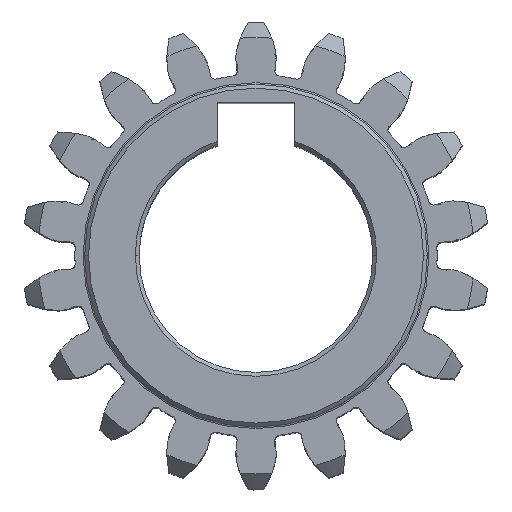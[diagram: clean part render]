
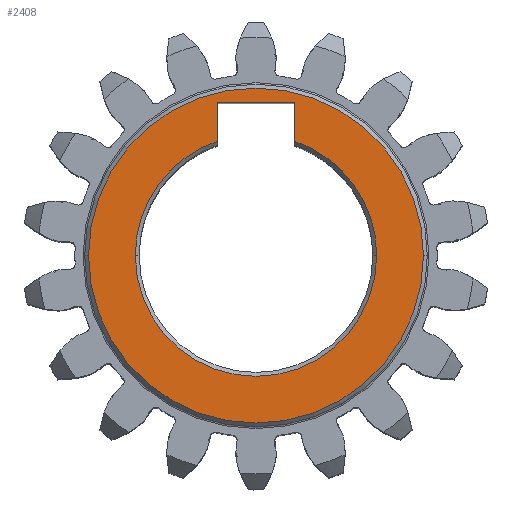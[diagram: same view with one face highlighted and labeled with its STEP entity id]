
A CAD part, top view. The second image highlights one B-rep face of the part: STEP entity #2408.
In plain terms, the highlighted planar face has unit normal (0, 0, 1).
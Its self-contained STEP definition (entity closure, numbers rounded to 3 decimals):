
#182 = DIRECTION ( 'NONE',  ( 1., 0., 0. ) ) ;
#252 = DIRECTION ( 'NONE',  ( 0., 0., 1. ) ) ;
#407 = DIRECTION ( 'NONE',  ( 1., 0., 0. ) ) ;
#514 = VERTEX_POINT ( 'NONE', #2879 ) ;
#551 = FACE_OUTER_BOUND ( 'NONE', #1300, .T. ) ;
#602 = CARTESIAN_POINT ( 'NONE',  ( 0., 0., 15. ) ) ;
#631 = CARTESIAN_POINT ( 'NONE',  ( -10.75, 0., 15. ) ) ;
#855 = AXIS2_PLACEMENT_3D ( 'NONE', #602, #10812, #5679 ) ;
#941 = ORIENTED_EDGE ( 'NONE', *, *, #4133, .T. ) ;
#1032 = VECTOR ( 'NONE', #6882, 1000. ) ;
#1300 = EDGE_LOOP ( 'NONE', ( #941, #10538 ) ) ;
#1587 = VECTOR ( 'NONE', #6130, 1000. ) ;
#1857 = LINE ( 'NONE', #2592, #1032 ) ;
#1892 = CARTESIAN_POINT ( 'NONE',  ( -7.75, 0., 15. ) ) ;
#1932 = AXIS2_PLACEMENT_3D ( 'NONE', #3542, #5310, #182 ) ;
#2365 = LINE ( 'NONE', #8403, #6014 ) ;
#2405 = VERTEX_POINT ( 'NONE', #9143 ) ;
#2408 = ADVANCED_FACE ( 'NONE', ( #551, #10767 ), #4729, .T. ) ;
#2418 = ORIENTED_EDGE ( 'NONE', *, *, #2853, .T. ) ;
#2423 = VERTEX_POINT ( 'NONE', #4892 ) ;
#2535 = CARTESIAN_POINT ( 'NONE',  ( 7.75, 0., 15. ) ) ;
#2576 = EDGE_CURVE ( 'NONE', #3719, #2423, #7447, .T. ) ;
#2592 = CARTESIAN_POINT ( 'NONE',  ( 2.5, 9.8, 15. ) ) ;
#2785 = EDGE_CURVE ( 'NONE', #2405, #514, #2365, .T. ) ;
#2853 = EDGE_CURVE ( 'NONE', #8025, #2405, #1857, .T. ) ;
#2879 = CARTESIAN_POINT ( 'NONE',  ( 2.5, 7.336, 15. ) ) ;
#2888 = DIRECTION ( 'NONE',  ( 0., 0., -1. ) ) ;
#2950 = EDGE_CURVE ( 'NONE', #3438, #3719, #5492, .T. ) ;
#3009 = ORIENTED_EDGE ( 'NONE', *, *, #2785, .T. ) ;
#3014 = CIRCLE ( 'NONE', #10128, 10.75 ) ;
#3438 = VERTEX_POINT ( 'NONE', #2535 ) ;
#3542 = CARTESIAN_POINT ( 'NONE',  ( 0., 0., 15. ) ) ;
#3719 = VERTEX_POINT ( 'NONE', #1892 ) ;
#3941 = CARTESIAN_POINT ( 'NONE',  ( 10.75, 0., 15. ) ) ;
#4133 = EDGE_CURVE ( 'NONE', #9963, #9974, #7088, .T. ) ;
#4235 = CIRCLE ( 'NONE', #6379, 7.75 ) ;
#4369 = EDGE_CURVE ( 'NONE', #9974, #9963, #3014, .T. ) ;
#4498 = ORIENTED_EDGE ( 'NONE', *, *, #8103, .T. ) ;
#4729 = PLANE ( 'NONE',  #855 ) ;
#4744 = DIRECTION ( 'NONE',  ( 0., 0., 1. ) ) ;
#4892 = CARTESIAN_POINT ( 'NONE',  ( -2.5, 7.336, 15. ) ) ;
#5061 = CARTESIAN_POINT ( 'NONE',  ( 0., 0., 15. ) ) ;
#5141 = LINE ( 'NONE', #6301, #1587 ) ;
#5310 = DIRECTION ( 'NONE',  ( 0., 0., -1. ) ) ;
#5492 = CIRCLE ( 'NONE', #1932, 7.75 ) ;
#5641 = CARTESIAN_POINT ( 'NONE',  ( 0., 0., 15. ) ) ;
#5679 = DIRECTION ( 'NONE',  ( 1., 0., 0. ) ) ;
#6014 = VECTOR ( 'NONE', #10843, 1000. ) ;
#6130 = DIRECTION ( 'NONE',  ( 0., 1., 0. ) ) ;
#6208 = DIRECTION ( 'NONE',  ( 1., 0., 0. ) ) ;
#6301 = CARTESIAN_POINT ( 'NONE',  ( -2.5, 5.2, 15. ) ) ;
#6323 = DIRECTION ( 'NONE',  ( 1., 0., 0. ) ) ;
#6379 = AXIS2_PLACEMENT_3D ( 'NONE', #10527, #2888, #6323 ) ;
#6849 = DIRECTION ( 'NONE',  ( 0., 0., -1. ) ) ;
#6882 = DIRECTION ( 'NONE',  ( 1., 0., 0. ) ) ;
#6909 = AXIS2_PLACEMENT_3D ( 'NONE', #9624, #252, #6208 ) ;
#7088 = CIRCLE ( 'NONE', #6909, 10.75 ) ;
#7239 = ORIENTED_EDGE ( 'NONE', *, *, #2950, .T. ) ;
#7447 = CIRCLE ( 'NONE', #7803, 7.75 ) ;
#7690 = EDGE_CURVE ( 'NONE', #514, #3438, #4235, .T. ) ;
#7803 = AXIS2_PLACEMENT_3D ( 'NONE', #5061, #6849, #10208 ) ;
#8025 = VERTEX_POINT ( 'NONE', #11000 ) ;
#8103 = EDGE_CURVE ( 'NONE', #2423, #8025, #5141, .T. ) ;
#8403 = CARTESIAN_POINT ( 'NONE',  ( 2.5, 5.2, 15. ) ) ;
#8797 = ORIENTED_EDGE ( 'NONE', *, *, #2576, .T. ) ;
#9143 = CARTESIAN_POINT ( 'NONE',  ( 2.5, 9.8, 15. ) ) ;
#9624 = CARTESIAN_POINT ( 'NONE',  ( 0., 0., 15. ) ) ;
#9963 = VERTEX_POINT ( 'NONE', #631 ) ;
#9974 = VERTEX_POINT ( 'NONE', #3941 ) ;
#10116 = EDGE_LOOP ( 'NONE', ( #3009, #10348, #7239, #8797, #4498, #2418 ) ) ;
#10128 = AXIS2_PLACEMENT_3D ( 'NONE', #5641, #4744, #407 ) ;
#10208 = DIRECTION ( 'NONE',  ( 1., 0., 0. ) ) ;
#10348 = ORIENTED_EDGE ( 'NONE', *, *, #7690, .T. ) ;
#10527 = CARTESIAN_POINT ( 'NONE',  ( 0., 0., 15. ) ) ;
#10538 = ORIENTED_EDGE ( 'NONE', *, *, #4369, .T. ) ;
#10767 = FACE_BOUND ( 'NONE', #10116, .T. ) ;
#10812 = DIRECTION ( 'NONE',  ( 0., 0., 1. ) ) ;
#10843 = DIRECTION ( 'NONE',  ( 0., -1., 0. ) ) ;
#11000 = CARTESIAN_POINT ( 'NONE',  ( -2.5, 9.8, 15. ) ) ;
